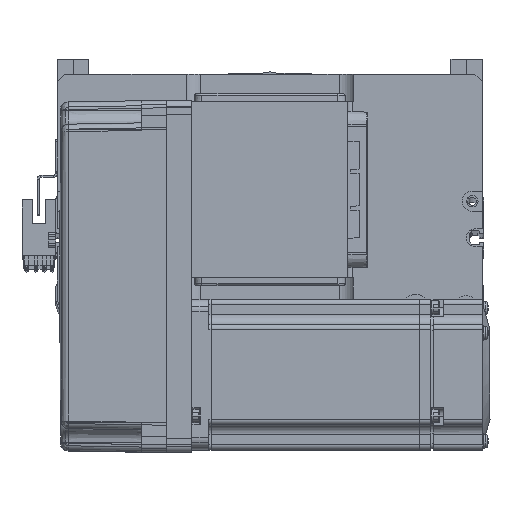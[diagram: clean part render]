
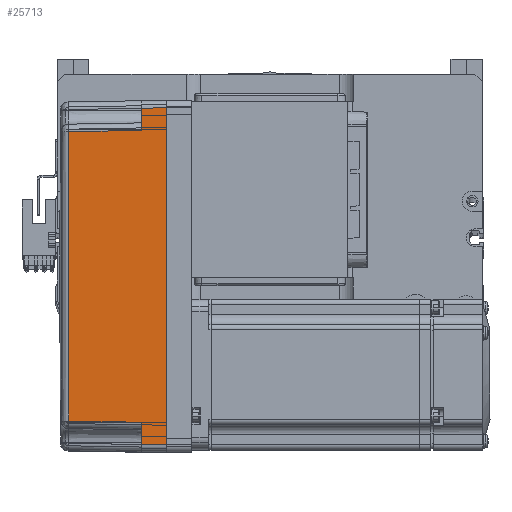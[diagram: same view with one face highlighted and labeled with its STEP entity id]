
A CAD part, top view. The second image highlights one B-rep face of the part: STEP entity #25713.
In plain terms, the highlighted planar face has unit normal (-0.018, 0, 1) as drawn and (0, -1, 0.017) by its records, which use the part's own axes.
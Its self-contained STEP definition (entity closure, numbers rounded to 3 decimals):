
#811 = DIRECTION ( 'NONE',  ( -1., 0., 0. ) ) ;
#957 = VERTEX_POINT ( 'NONE', #29498 ) ;
#1255 = ORIENTED_EDGE ( 'NONE', *, *, #40124, .F. ) ;
#2232 = EDGE_CURVE ( 'NONE', #27117, #28369, #51005, .T. ) ;
#2386 = VERTEX_POINT ( 'NONE', #55760 ) ;
#3754 = ORIENTED_EDGE ( 'NONE', *, *, #11542, .T. ) ;
#4158 = ORIENTED_EDGE ( 'NONE', *, *, #50799, .T. ) ;
#4518 = B_SPLINE_CURVE_WITH_KNOTS ( 'NONE', 3,
 ( #18786, #23543, #33634, #28666 ),
 .UNSPECIFIED., .F., .F.,
 ( 4, 4 ),
 ( 0., 1. ),
 .UNSPECIFIED. ) ;
#4703 = CARTESIAN_POINT ( 'NONE',  ( 57.495, -35.32, 38.985 ) ) ;
#5596 = CARTESIAN_POINT ( 'NONE',  ( 70., -36., 0. ) ) ;
#5930 = LINE ( 'NONE', #16995, #50585 ) ;
#6864 = DIRECTION ( 'NONE',  ( 0., -1., 0.017 ) ) ;
#10778 = VECTOR ( 'NONE', #55940, 1000. ) ;
#11542 = EDGE_CURVE ( 'NONE', #14152, #49012, #46279, .T. ) ;
#12317 = LINE ( 'NONE', #16558, #10778 ) ;
#14152 = VERTEX_POINT ( 'NONE', #31353 ) ;
#14815 = CARTESIAN_POINT ( 'NONE',  ( 66.826, -35.825, 10. ) ) ;
#16120 = EDGE_CURVE ( 'NONE', #27117, #2386, #12317, .T. ) ;
#16169 = VECTOR ( 'NONE', #43037, 1000. ) ;
#16558 = CARTESIAN_POINT ( 'NONE',  ( 0., -36., 0. ) ) ;
#16995 = CARTESIAN_POINT ( 'NONE',  ( -57.495, -35.32, 38.985 ) ) ;
#17000 = LINE ( 'NONE', #20455, #37060 ) ;
#18786 = CARTESIAN_POINT ( 'NONE',  ( 57.495, -35.32, 38.985 ) ) ;
#19390 = LINE ( 'NONE', #42257, #30899 ) ;
#20455 = CARTESIAN_POINT ( 'NONE',  ( 70., -35.825, 10. ) ) ;
#23543 = CARTESIAN_POINT ( 'NONE',  ( 19.165, -35.316, 39.181 ) ) ;
#24420 = ORIENTED_EDGE ( 'NONE', *, *, #49774, .T. ) ;
#25713 = ADVANCED_FACE ( 'NONE', ( #39019 ), #54612, .T. ) ;
#26884 = VERTEX_POINT ( 'NONE', #49537 ) ;
#27117 = VERTEX_POINT ( 'NONE', #46936 ) ;
#28369 = VERTEX_POINT ( 'NONE', #14815 ) ;
#28666 = CARTESIAN_POINT ( 'NONE',  ( -57.495, -35.32, 38.985 ) ) ;
#29498 = CARTESIAN_POINT ( 'NONE',  ( -58., -35.825, 10. ) ) ;
#30813 = CARTESIAN_POINT ( 'NONE',  ( 67., -36., 0. ) ) ;
#30899 = VECTOR ( 'NONE', #32991, 1000. ) ;
#31220 = DIRECTION ( 'NONE',  ( -0.017, -0.017, -1. ) ) ;
#31353 = CARTESIAN_POINT ( 'NONE',  ( 58., -35.825, 10. ) ) ;
#32343 = ORIENTED_EDGE ( 'NONE', *, *, #2232, .T. ) ;
#32525 = ORIENTED_EDGE ( 'NONE', *, *, #53739, .T. ) ;
#32991 = DIRECTION ( 'NONE',  ( 0.017, 0.017, 1. ) ) ;
#33118 = CARTESIAN_POINT ( 'NONE',  ( 58., -35.825, 10. ) ) ;
#33634 = CARTESIAN_POINT ( 'NONE',  ( -19.165, -35.316, 39.181 ) ) ;
#35771 = DIRECTION ( 'NONE',  ( -0.017, 0.017, 1. ) ) ;
#36365 = LINE ( 'NONE', #62895, #48851 ) ;
#37060 = VECTOR ( 'NONE', #811, 1000. ) ;
#37533 = EDGE_CURVE ( 'NONE', #49012, #26884, #4518, .T. ) ;
#38027 = AXIS2_PLACEMENT_3D ( 'NONE', #5596, #6864, #61267 ) ;
#39019 = FACE_OUTER_BOUND ( 'NONE', #55514, .T. ) ;
#40124 = EDGE_CURVE ( 'NONE', #2386, #40931, #19390, .T. ) ;
#40931 = VERTEX_POINT ( 'NONE', #61675 ) ;
#42257 = CARTESIAN_POINT ( 'NONE',  ( -66.959, -35.958, 2.39 ) ) ;
#42932 = DIRECTION ( 'NONE',  ( -1., 0., 0. ) ) ;
#43037 = DIRECTION ( 'NONE',  ( -0.017, 0.017, 1. ) ) ;
#46279 = LINE ( 'NONE', #33118, #16169 ) ;
#46936 = CARTESIAN_POINT ( 'NONE',  ( 67., -36., 0. ) ) ;
#48073 = ORIENTED_EDGE ( 'NONE', *, *, #16120, .F. ) ;
#48851 = VECTOR ( 'NONE', #42932, 1000. ) ;
#49012 = VERTEX_POINT ( 'NONE', #4703 ) ;
#49537 = CARTESIAN_POINT ( 'NONE',  ( -57.495, -35.32, 38.985 ) ) ;
#49774 = EDGE_CURVE ( 'NONE', #28369, #14152, #36365, .T. ) ;
#50585 = VECTOR ( 'NONE', #31220, 1000. ) ;
#50799 = EDGE_CURVE ( 'NONE', #957, #40931, #17000, .T. ) ;
#51005 = LINE ( 'NONE', #30813, #54762 ) ;
#53739 = EDGE_CURVE ( 'NONE', #26884, #957, #5930, .T. ) ;
#54612 = PLANE ( 'NONE',  #38027 ) ;
#54762 = VECTOR ( 'NONE', #35771, 1000. ) ;
#55514 = EDGE_LOOP ( 'NONE', ( #32343, #24420, #3754, #55764, #32525, #4158, #1255, #48073 ) ) ;
#55760 = CARTESIAN_POINT ( 'NONE',  ( -67., -36., 0. ) ) ;
#55764 = ORIENTED_EDGE ( 'NONE', *, *, #37533, .T. ) ;
#55940 = DIRECTION ( 'NONE',  ( -1., 0., 0. ) ) ;
#61267 = DIRECTION ( 'NONE',  ( 0., -0.017, -1. ) ) ;
#61675 = CARTESIAN_POINT ( 'NONE',  ( -66.826, -35.825, 10. ) ) ;
#62895 = CARTESIAN_POINT ( 'NONE',  ( 70., -35.825, 10. ) ) ;
